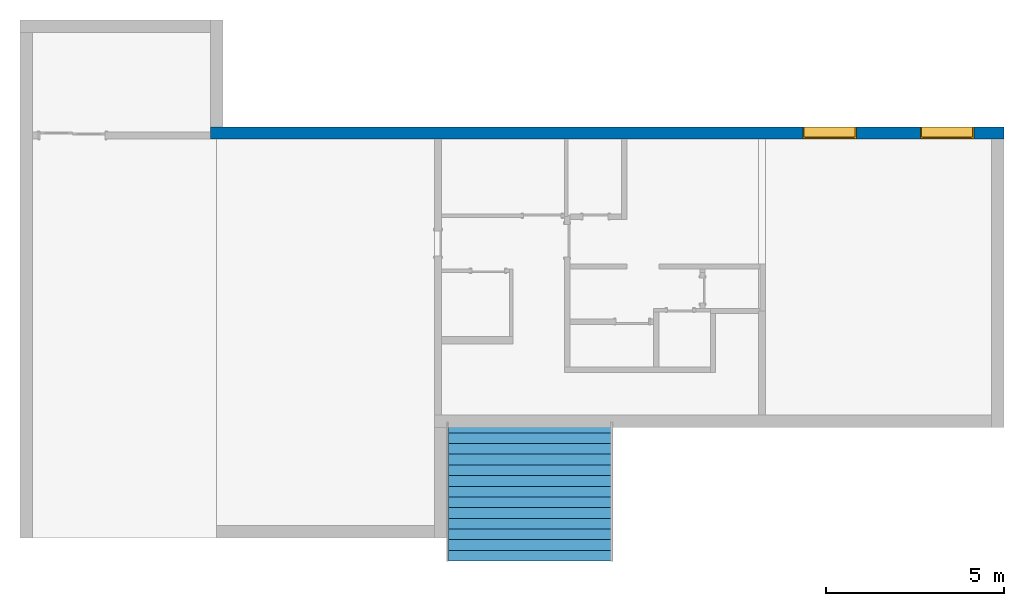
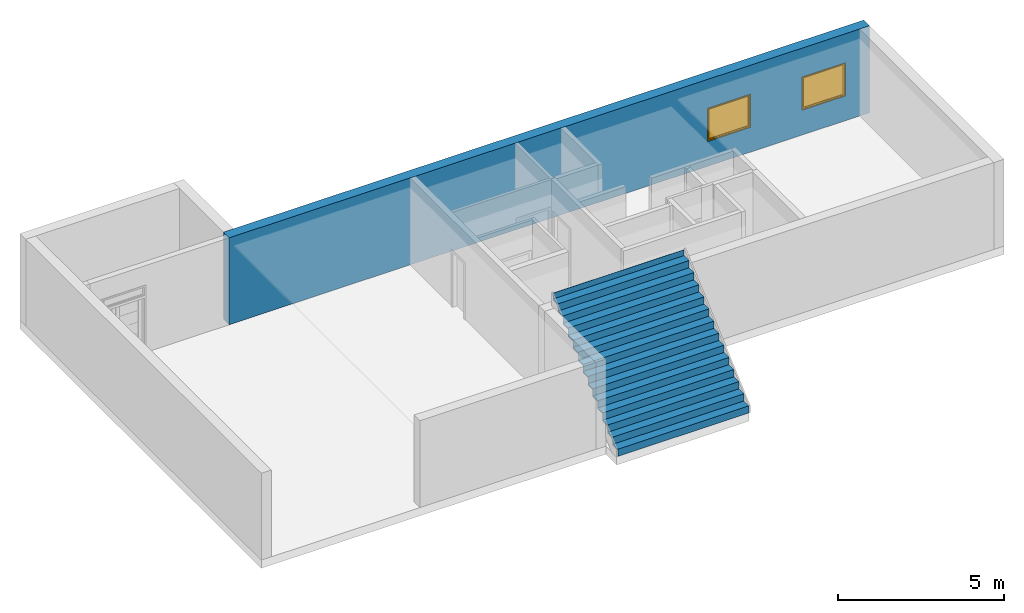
# One storey, part 4 of 5: 2 windows, 1 stair flight, 1 wall, 2 openings, 1 element without a shape of its own.
"""IFC2X3 building model written with IfcOpenShell, lengths in metres."""

from ifc_helpers import new_model, entity, si_unit, converted_unit, derived_unit, direction, frame, frame_2d, origin, place, context, subcontext, project, spatial, polyline, rectangle, outline, extrude, source, transform, mapped, material, material_list, layer, layer_set, layer_usage, type_object, type_shapes, element, fill, aggregate, save


model = new_model("IFC2X3")

# Units and contexts
model_context = context("Model", 3, precision=1e-05, world=origin(), true_north=direction((6.123031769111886e-17, 1.0)))
body_context = subcontext(model_context, "Body", "Model", "MODEL_VIEW")
ifc_project = project(units=[si_unit("LENGTHUNIT", "METRE"), si_unit("AREAUNIT", "SQUARE_METRE"), si_unit("VOLUMEUNIT", "CUBIC_METRE"), converted_unit("PLANEANGLEUNIT", "DEGREE", entity("IfcRatioMeasure", 0.017453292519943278), si_unit("PLANEANGLEUNIT", "RADIAN"), dimensions=[0, 0, 0, 0, 0, 0, 0]), si_unit("MASSUNIT", "GRAM", prefix="KILO"), derived_unit("MASSDENSITYUNIT", [(si_unit("MASSUNIT", "GRAM", prefix="KILO"), 1), (si_unit("LENGTHUNIT", "METRE"), -3)]), derived_unit("MOMENTOFINERTIAUNIT", [(si_unit("LENGTHUNIT", "METRE"), 4)]), si_unit("TIMEUNIT", "SECOND"), si_unit("FREQUENCYUNIT", "HERTZ"), si_unit("THERMODYNAMICTEMPERATUREUNIT", "DEGREE_CELSIUS"), derived_unit("THERMALTRANSMITTANCEUNIT", [(si_unit("MASSUNIT", "GRAM", prefix="KILO"), 1), (si_unit("THERMODYNAMICTEMPERATUREUNIT", "KELVIN"), -1), (si_unit("TIMEUNIT", "SECOND"), -3)]), derived_unit("VOLUMETRICFLOWRATEUNIT", [(si_unit("LENGTHUNIT", "METRE"), 3), (si_unit("TIMEUNIT", "SECOND"), -1)]), derived_unit("MASSFLOWRATEUNIT", [(si_unit("MASSUNIT", "GRAM", prefix="KILO"), 1), (si_unit("TIMEUNIT", "SECOND"), -1)]), derived_unit("ROTATIONALFREQUENCYUNIT", [(si_unit("TIMEUNIT", "SECOND"), -1)]), si_unit("ELECTRICCURRENTUNIT", "AMPERE"), si_unit("ELECTRICVOLTAGEUNIT", "VOLT"), si_unit("POWERUNIT", "WATT"), si_unit("FORCEUNIT", "NEWTON", prefix="KILO"), si_unit("ILLUMINANCEUNIT", "LUX"), si_unit("LUMINOUSFLUXUNIT", "LUMEN"), si_unit("LUMINOUSINTENSITYUNIT", "CANDELA"), derived_unit("USERDEFINED", [(si_unit("MASSUNIT", "GRAM", prefix="KILO"), -1), (si_unit("LENGTHUNIT", "METRE"), -2), (si_unit("TIMEUNIT", "SECOND"), 3), (si_unit("LUMINOUSFLUXUNIT", "LUMEN"), 1)]), derived_unit("SOUNDPOWERUNIT", [(si_unit("MASSUNIT", "GRAM", prefix="KILO"), 1), (si_unit("LENGTHUNIT", "METRE"), 2), (si_unit("TIMEUNIT", "SECOND"), -3)]), derived_unit("SOUNDPRESSUREUNIT", [(si_unit("MASSUNIT", "GRAM", prefix="KILO"), 1), (si_unit("LENGTHUNIT", "METRE"), -1), (si_unit("TIMEUNIT", "SECOND"), -2)]), derived_unit("LINEARVELOCITYUNIT", [(si_unit("LENGTHUNIT", "METRE"), 1), (si_unit("TIMEUNIT", "SECOND"), -1)]), si_unit("PRESSUREUNIT", "PASCAL"), derived_unit("USERDEFINED", [(si_unit("LENGTHUNIT", "METRE"), -2), (si_unit("MASSUNIT", "GRAM", prefix="KILO"), 1), (si_unit("TIMEUNIT", "SECOND"), -2)]), derived_unit("LINEARFORCEUNIT", [(si_unit("MASSUNIT", "GRAM", prefix="KILO"), 1), (si_unit("LENGTHUNIT", "METRE"), 1), (si_unit("TIMEUNIT", "SECOND"), -2), (si_unit("LENGTHUNIT", "METRE"), -1)]), derived_unit("PLANARFORCEUNIT", [(si_unit("MASSUNIT", "GRAM", prefix="KILO"), 1), (si_unit("LENGTHUNIT", "METRE"), 1), (si_unit("TIMEUNIT", "SECOND"), -2), (si_unit("LENGTHUNIT", "METRE"), -2)])], contexts=[model_context])

# Site, building, storey
site_placement = place(None, origin())
site = spatial("IfcSite", under=ifc_project, at=site_placement, Name="Default", CompositionType="ELEMENT")
building_placement = place(site_placement, origin())
building = spatial("IfcBuilding", under=site, at=building_placement, CompositionType="ELEMENT")
storey_placement = place(building_placement, frame((0.0, 0.0, -2.3)))
storey = spatial("IfcBuildingStorey", under=building, at=storey_placement, Name="B1", CompositionType="ELEMENT", Elevation=-2.3)

# Wall, openings, windows
ifc_material_1 = material(Name="Masonry - Concrete Block")
ifc_layer = layer(ifc_material_1, 0.35)
ifc_layer_set = layer_set([ifc_layer], Name="Basic Wall:CW 350")
ifc_layer_usage = layer_usage(ifc_layer_set, "AXIS2", "NEGATIVE", 0.175)
wall_type = type_object("IfcWallType", Name="Basic Wall:CW 350", PredefinedType="STANDARD", material=ifc_layer_set)
wall_placement = place(storey_placement, frame((6.607683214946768, 2.8247074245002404, 0.0)))
wall = element("IfcWallStandardCase", 1, at=wall_placement, inside=storey, type_object=wall_type, material=ifc_layer_usage, Name="Basic Wall:CW 350", ObjectType="Basic Wall:CW 350", context=body_context, shape_type="SweptSolid", body=[
    extrude(rectangle(XDim=22.30000000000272, YDim=0.35000000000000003, at=frame_2d((11.15000000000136, -2.220446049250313e-16), x_axis=(-1.0, 0.0))), origin(), (0.0, 0.0, 1.0), 3.2),
])
opening_1_placement = place(wall_placement, frame((18.150000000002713, 0.1749999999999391, 0.9150000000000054)))
opening_1 = element("IfcOpeningElement", 2, at=opening_1_placement, cuts=wall, Name="M_Fixed:0915 x 1220mm:1", ObjectType="Opening", context=body_context, shape_type="SweptSolid", body=[
    extrude(rectangle(XDim=1.2199999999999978, YDim=1.4999999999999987, at=frame_2d((0.6099999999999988, 0.7499999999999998), x_axis=(1.0, 0.0))), frame((0.0, 0.0, 0.0), z_axis=(0.0, -1.0, 0.0), x_axis=(0.0, 0.0, 1.0)), (0.0, 0.0, 1.0), 0.35),
])
opening_2_placement = place(wall_placement, frame((21.450000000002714, 0.17499999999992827, 0.9150000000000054)))
opening_2 = element("IfcOpeningElement", 3, at=opening_2_placement, cuts=wall, Name="M_Fixed:0915 x 1220mm:1", ObjectType="Opening", context=body_context, shape_type="SweptSolid", body=[
    extrude(rectangle(XDim=1.2199999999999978, YDim=1.4999999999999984, at=frame_2d((0.6099999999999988, 0.7499999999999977), x_axis=(1.0, 0.0))), frame((0.0, 0.0, 0.0), z_axis=(0.0, -1.0, 0.0), x_axis=(0.0, 0.0, 1.0)), (0.0, 0.0, 1.0), 0.35),
])
ifc_material_2 = material(Name="Glass")
ifc_material_3 = material(Name="Sash")
ifc_material_list_1 = material_list([ifc_material_2, ifc_material_3, ifc_material_3, ifc_material_3])
ifc_material_list_2 = material_list([ifc_material_2, ifc_material_3, ifc_material_3, ifc_material_3])
window_style = type_object("IfcWindowStyle", Name="M_Fixed:0915 x 1220mm", ConstructionType="NOTDEFINED", OperationType="NOTDEFINED", ParameterTakesPrecedence=False, Sizeable=False, material=ifc_material_list_2)
shared_shape = source(origin(), body_context, "Body", "SweptSolid", [
    extrude(rectangle(XDim=0.011999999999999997, YDim=1.3739999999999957, at=frame_2d((8.239936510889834e-18, 0.0), x_axis=(1.0, 0.0))), frame((0.7500000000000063, 0.30900000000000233, 0.06299999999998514), z_axis=(0.0, 0.0, 1.0), x_axis=(0.0, -1.0, 0.0)), (0.0, 0.0, 1.0), 1.0940000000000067),
    extrude(outline(polyline([(-0.7309999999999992, -0.5910000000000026), (0.7309999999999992, -0.5910000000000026), (0.7309999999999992, 0.5910000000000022), (-0.7309999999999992, 0.5910000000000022), (-0.7309999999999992, -0.5910000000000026)]), holes=[polyline([(-0.686999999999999, -0.5470000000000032), (-0.686999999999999, 0.5470000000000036), (0.6869999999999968, 0.5470000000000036), (0.6869999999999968, -0.5470000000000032), (-0.686999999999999, -0.5470000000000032)])]), frame((0.7500000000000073, 0.28699999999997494, 0.6099999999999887), z_axis=(0.0, 1.0, 0.0), x_axis=(1.0, 0.0, 0.0)), (0.0, 0.0, 1.0), 0.04400000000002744),
    extrude(outline(polyline([(-0.749999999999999, -0.609999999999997), (0.749999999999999, -0.609999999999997), (0.749999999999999, 0.609999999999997), (-0.749999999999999, 0.609999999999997), (-0.749999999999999, -0.609999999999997)]), holes=[polyline([(-0.7310000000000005, -0.5909999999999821), (-0.7310000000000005, 0.5910000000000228), (0.7309999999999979, 0.5910000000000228), (0.7309999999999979, -0.5909999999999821), (-0.7310000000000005, -0.5909999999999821)])]), frame((0.7500000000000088, 0.28699999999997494, 0.6100000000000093), z_axis=(0.0, 1.0, 0.0), x_axis=(1.0, 0.0, 0.0)), (0.0, 0.0, 1.0), 0.06300000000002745),
    extrude(outline(polyline([(-0.7499999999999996, -0.6099999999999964), (0.7499999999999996, -0.6099999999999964), (0.7499999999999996, 0.6099999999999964), (-0.7499999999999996, 0.6099999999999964), (-0.7499999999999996, -0.6099999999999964)]), holes=[polyline([(-0.7179999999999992, -0.5779999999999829), (-0.7179999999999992, 0.5780000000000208), (0.7179999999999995, 0.5780000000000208), (0.7179999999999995, -0.5779999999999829), (-0.7179999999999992, -0.5779999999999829)])]), frame((0.7500000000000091, 0.0, 0.6100000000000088), z_axis=(0.0, 1.0, 0.0), x_axis=(1.0, 0.0, 0.0)), (0.0, 0.0, 1.0), 0.2869999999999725),
])
type_shapes(window_style, [shared_shape])
window_1_placement = place(opening_1_placement, frame((0.0, 0.0, 0.0), z_axis=(0.0, 0.0, 1.0), x_axis=(-1.0, 0.0, 0.0)))
window_1 = element("IfcWindow", 4, at=window_1_placement, inside=storey, type_object=window_style, material=ifc_material_list_1, Name="M_Fixed:0915 x 1220mm", ObjectType="M_Fixed:0915 x 1220mm", OverallHeight=1.2199999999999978, OverallWidth=1.499999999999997, context=body_context, shape_type="MappedRepresentation", body=[
    mapped(shared_shape, transform((0.0, 0.0, 0.0), scale=1.0)),
])
fill(opening_1, window_1)
ifc_material_list_3 = material_list([ifc_material_2, ifc_material_3])
window_2_placement = place(opening_2_placement, frame((0.0, 0.0, 0.0), z_axis=(0.0, 0.0, 1.0), x_axis=(-1.0, 0.0, 0.0)))
window_2 = element("IfcWindow", 5, at=window_2_placement, inside=storey, type_object=window_style, material=ifc_material_list_3, Name="M_Fixed:0915 x 1220mm", ObjectType="M_Fixed:0915 x 1220mm", OverallHeight=1.2199999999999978, OverallWidth=1.499999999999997, context=body_context, shape_type="MappedRepresentation", body=[
    mapped(shared_shape, transform((0.0, 0.0, 0.0), scale=1.0)),
])
fill(opening_2, window_2)

# Stair, stair flight
stair_placement = place(storey_placement, origin())
stair = element("IfcStair", 6, at=stair_placement, inside=storey, Name="Assembled Stair:Stair", ObjectType="Assembled Stair:190mm max riser 250mm going", ShapeType="STRAIGHT_RUN_STAIR")
ifc_material_4 = material(Name="<Unnamed>")
stair_flight_type = type_object("IfcStairFlightType", Name="Non-Monolithic Run:50 mm Tread 13 mm Riser", PredefinedType="STRAIGHT")
stair_flight_placement = place(stair_placement, origin())
stair_flight = element("IfcStairFlight", 7, at=stair_flight_placement, type_object=stair_flight_type, material=ifc_material_4, Name="Assembled Stair:Stair:228969 Run 1", ObjectType="Non-Monolithic Run:50 mm Tread 13 mm Riser", NumberOfRiser=14, NumberOfTreads=13, RiserHeight=0.8661417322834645, TreadLength=0.9842519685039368, context=body_context, shape_type="SweptSolid", body=[
    extrude(rectangle(XDim=4.561855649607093, YDim=0.012500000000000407, at=frame_2d((0.0, -5.412337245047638e-16), x_axis=(1.0, 0.0))), frame((15.576755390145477, -9.196059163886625, 0.0), z_axis=(0.0, 0.0, 1.0), x_axis=(-1.0, 0.0, 0.0)), (0.0, 0.0, 1.0), 0.21400000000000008),
    extrude(rectangle(XDim=0.30000000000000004, YDim=4.561855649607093, at=frame_2d((5.412337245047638e-16, 0.0), x_axis=(1.0, 0.0))), frame((15.576755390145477, -9.052309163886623, 0.21400000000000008), z_axis=(0.0, 0.0, 1.0), x_axis=(0.0, -1.0, 0.0)), (0.0, 0.0, 1.0), 0.05),
    extrude(rectangle(XDim=4.561855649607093, YDim=0.012500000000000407, at=frame_2d((0.0, 5.412337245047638e-16), x_axis=(1.0, 0.0))), frame((15.576755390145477, -8.896059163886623, 0.21400000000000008), z_axis=(0.0, 0.0, 1.0), x_axis=(-1.0, 0.0, 0.0)), (0.0, 0.0, 1.0), 0.2639999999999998),
    extrude(rectangle(XDim=0.30000000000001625, YDim=4.561855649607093, at=frame_2d((-7.577272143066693e-15, 0.0), x_axis=(1.0, 0.0))), frame((15.576755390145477, -8.752309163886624, 0.47799999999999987), z_axis=(0.0, 0.0, 1.0), x_axis=(0.0, -1.0, 0.0)), (0.0, 0.0, 1.0), 0.05),
    extrude(rectangle(XDim=4.561855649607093, YDim=0.012500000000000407, at=frame_2d((0.0, 5.412337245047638e-16), x_axis=(1.0, 0.0))), frame((15.57675539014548, -8.59605916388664, 0.47800000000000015), z_axis=(0.0, 0.0, 1.0), x_axis=(-1.0, 0.0, 0.0)), (0.0, 0.0, 1.0), 0.2639999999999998),
    extrude(rectangle(XDim=0.30000000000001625, YDim=4.561855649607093, at=frame_2d((-7.577272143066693e-15, 0.0), x_axis=(1.0, 0.0))), frame((15.57675539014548, -8.452309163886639, 0.742), z_axis=(0.0, 0.0, 1.0), x_axis=(0.0, -1.0, 0.0)), (0.0, 0.0, 1.0), 0.05),
    extrude(rectangle(XDim=4.561855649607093, YDim=0.012500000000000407, at=frame_2d((0.0, 5.412337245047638e-16), x_axis=(1.0, 0.0))), frame((15.57675539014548, -8.296059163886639, 0.742), z_axis=(0.0, 0.0, 1.0), x_axis=(-1.0, 0.0, 0.0)), (0.0, 0.0, 1.0), 0.2639999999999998),
    extrude(rectangle(XDim=0.30000000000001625, YDim=4.561855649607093, at=frame_2d((-7.577272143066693e-15, 0.0), x_axis=(1.0, 0.0))), frame((15.57675539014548, -8.15230916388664, 1.0059999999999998), z_axis=(0.0, 0.0, 1.0), x_axis=(0.0, -1.0, 0.0)), (0.0, 0.0, 1.0), 0.05),
    extrude(rectangle(XDim=4.561855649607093, YDim=0.012500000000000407, at=frame_2d((0.0, -5.412337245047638e-16), x_axis=(1.0, 0.0))), frame((15.57675539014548, -7.996059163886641, 1.006), z_axis=(0.0, 0.0, 1.0), x_axis=(-1.0, 0.0, 0.0)), (0.0, 0.0, 1.0), 0.2639999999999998),
    extrude(rectangle(XDim=0.30000000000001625, YDim=4.561855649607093, at=frame_2d((-8.659739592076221e-15, 0.0), x_axis=(1.0, 0.0))), frame((15.57675539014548, -7.852309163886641, 1.2699999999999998), z_axis=(0.0, 0.0, 1.0), x_axis=(0.0, -1.0, 0.0)), (0.0, 0.0, 1.0), 0.05),
    extrude(rectangle(XDim=4.561855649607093, YDim=0.012500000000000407, at=frame_2d((0.0, 5.412337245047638e-16), x_axis=(1.0, 0.0))), frame((15.57675539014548, -7.696059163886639, 1.2700000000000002), z_axis=(0.0, 0.0, 1.0), x_axis=(-1.0, 0.0, 0.0)), (0.0, 0.0, 1.0), 0.2639999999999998),
    extrude(rectangle(XDim=0.30000000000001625, YDim=4.561855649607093, at=frame_2d((-7.577272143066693e-15, 0.0), x_axis=(1.0, 0.0))), frame((15.57675539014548, -7.5523091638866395, 1.534), z_axis=(0.0, 0.0, 1.0), x_axis=(0.0, -1.0, 0.0)), (0.0, 0.0, 1.0), 0.05),
    extrude(rectangle(XDim=4.561855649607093, YDim=0.012500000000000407, at=frame_2d((0.0, -5.412337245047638e-16), x_axis=(1.0, 0.0))), frame((15.576755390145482, -7.396059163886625, 1.534), z_axis=(0.0, 0.0, 1.0), x_axis=(-1.0, 0.0, 0.0)), (0.0, 0.0, 1.0), 0.2639999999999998),
    extrude(rectangle(XDim=0.30000000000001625, YDim=4.561855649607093, at=frame_2d((-8.659739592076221e-15, 0.0), x_axis=(1.0, 0.0))), frame((15.576755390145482, -7.2523091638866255, 1.7979999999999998), z_axis=(0.0, 0.0, 1.0), x_axis=(0.0, -1.0, 0.0)), (0.0, 0.0, 1.0), 0.05),
    extrude(rectangle(XDim=4.561855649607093, YDim=0.012500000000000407, at=frame_2d((0.0, 5.412337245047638e-16), x_axis=(1.0, 0.0))), frame((15.576755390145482, -7.09605916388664, 1.798), z_axis=(0.0, 0.0, 1.0), x_axis=(-1.0, 0.0, 0.0)), (0.0, 0.0, 1.0), 0.2639999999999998),
    extrude(rectangle(XDim=0.30000000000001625, YDim=4.561855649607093, at=frame_2d((-7.577272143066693e-15, 0.0), x_axis=(1.0, 0.0))), frame((15.576755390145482, -6.95230916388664, 2.062), z_axis=(0.0, 0.0, 1.0), x_axis=(0.0, -1.0, 0.0)), (0.0, 0.0, 1.0), 0.05),
    extrude(rectangle(XDim=4.561855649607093, YDim=0.012500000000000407, at=frame_2d((0.0, -5.412337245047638e-16), x_axis=(1.0, 0.0))), frame((15.576755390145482, -6.796059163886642, 2.0620000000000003), z_axis=(0.0, 0.0, 1.0), x_axis=(-1.0, 0.0, 0.0)), (0.0, 0.0, 1.0), 0.2639999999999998),
    extrude(rectangle(XDim=0.30000000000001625, YDim=4.561855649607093, at=frame_2d((-8.659739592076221e-15, 0.0), x_axis=(1.0, 0.0))), frame((15.576755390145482, -6.652309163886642, 2.326), z_axis=(0.0, 0.0, 1.0), x_axis=(0.0, -1.0, 0.0)), (0.0, 0.0, 1.0), 0.05),
    extrude(rectangle(XDim=4.561855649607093, YDim=0.012500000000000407, at=frame_2d((0.0, 5.412337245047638e-16), x_axis=(1.0, 0.0))), frame((15.576755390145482, -6.496059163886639, 2.326), z_axis=(0.0, 0.0, 1.0), x_axis=(-1.0, 0.0, 0.0)), (0.0, 0.0, 1.0), 0.2639999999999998),
    extrude(rectangle(XDim=0.30000000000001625, YDim=4.561855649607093, at=frame_2d((-7.577272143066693e-15, 0.0), x_axis=(1.0, 0.0))), frame((15.576755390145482, -6.352309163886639, 2.59), z_axis=(0.0, 0.0, 1.0), x_axis=(0.0, -1.0, 0.0)), (0.0, 0.0, 1.0), 0.05),
    extrude(rectangle(XDim=4.561855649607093, YDim=0.012500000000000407, at=frame_2d((0.0, -5.412337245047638e-16), x_axis=(1.0, 0.0))), frame((15.576755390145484, -6.196059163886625, 2.5900000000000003), z_axis=(0.0, 0.0, 1.0), x_axis=(-1.0, 0.0, 0.0)), (0.0, 0.0, 1.0), 0.2639999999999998),
    extrude(rectangle(XDim=0.30000000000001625, YDim=4.561855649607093, at=frame_2d((-8.659739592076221e-15, 0.0), x_axis=(1.0, 0.0))), frame((15.576755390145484, -6.052309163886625, 2.8539999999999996), z_axis=(0.0, 0.0, 1.0), x_axis=(0.0, -1.0, 0.0)), (0.0, 0.0, 1.0), 0.05),
    extrude(rectangle(XDim=4.561855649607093, YDim=0.012500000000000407, at=frame_2d((0.0, -5.412337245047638e-16), x_axis=(1.0, 0.0))), frame((15.576755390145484, -5.896059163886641, 2.8539999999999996), z_axis=(0.0, 0.0, 1.0), x_axis=(-1.0, 0.0, 0.0)), (0.0, 0.0, 1.0), 0.2639999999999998),
    extrude(rectangle(XDim=0.30000000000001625, YDim=4.561855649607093, at=frame_2d((-8.659739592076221e-15, 0.0), x_axis=(1.0, 0.0))), frame((15.576755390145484, -5.7523091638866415, 3.118), z_axis=(0.0, 0.0, 1.0), x_axis=(0.0, -1.0, 0.0)), (0.0, 0.0, 1.0), 0.05),
    extrude(rectangle(XDim=4.561855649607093, YDim=0.012500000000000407, at=frame_2d((0.0, 5.412337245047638e-16), x_axis=(1.0, 0.0))), frame((15.576755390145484, -5.596059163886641, 3.1180000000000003), z_axis=(0.0, 0.0, 1.0), x_axis=(-1.0, 0.0, 0.0)), (0.0, 0.0, 1.0), 0.2639999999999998),
    extrude(rectangle(XDim=4.561855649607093, YDim=0.012500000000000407, at=frame_2d((0.0, 5.412337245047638e-16), x_axis=(1.0, 0.0))), frame((15.576755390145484, -5.296059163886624, 3.382), z_axis=(0.0, 0.0, 1.0), x_axis=(-1.0, 0.0, 0.0)), (0.0, 0.0, 1.0), 0.26400000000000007),
    extrude(rectangle(XDim=0.30000000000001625, YDim=4.561855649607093, at=frame_2d((-7.577272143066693e-15, 0.0), x_axis=(1.0, 0.0))), frame((15.576755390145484, -5.452309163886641, 3.382), z_axis=(0.0, 0.0, 1.0), x_axis=(0.0, -1.0, 0.0)), (0.0, 0.0, 1.0), 0.05),
])
aggregate(stair, [stair_flight])

save(model, "model.ifc")
